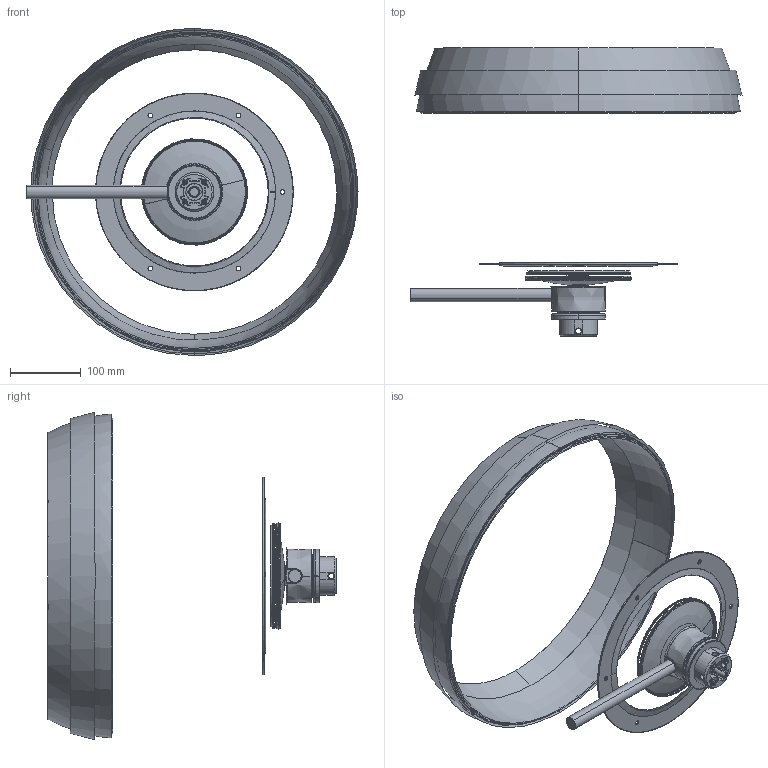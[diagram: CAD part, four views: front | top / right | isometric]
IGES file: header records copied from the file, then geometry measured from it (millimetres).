
Start section: SolidWorks IGES file using analytic representation for surfaces
Bounding box: 470.26 x 408.02 x 463.26 mm (x, y, z)
Surface area: 972155.8 mm2 (no closed solid volume)
Topology: 0 solids, 0 shells, 882 faces, 11864 edges, 11830 vertices
Faces by surface type: revolution 516, bspline 366
